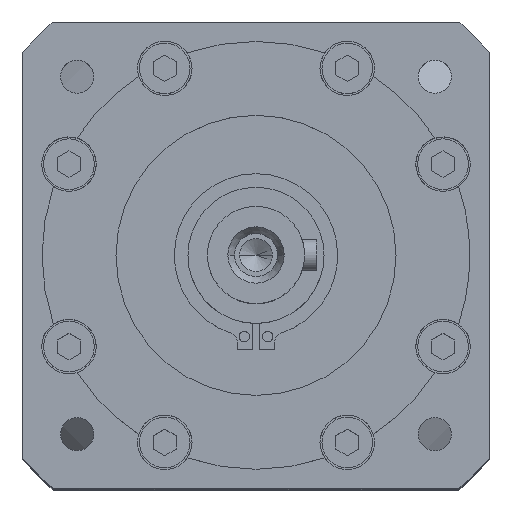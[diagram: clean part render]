
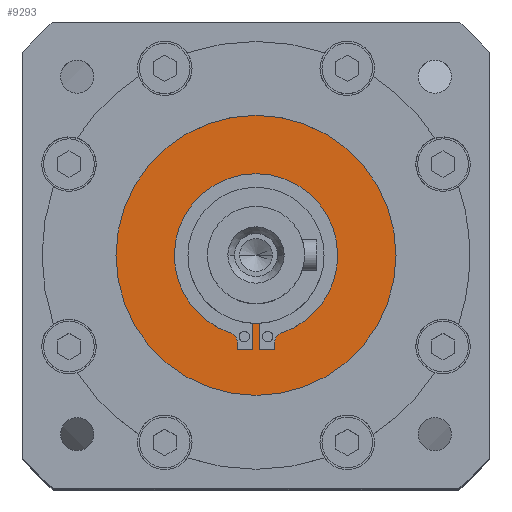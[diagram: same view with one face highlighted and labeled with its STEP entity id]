
A CAD part, top view. The second image highlights one B-rep face of the part: STEP entity #9293.
In plain terms, the highlighted planar face has unit normal (0, 0, 1).
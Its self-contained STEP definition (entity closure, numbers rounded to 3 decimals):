
#36 = CIRCLE ( 'NONE', #3330, 36. ) ;
#170 = CARTESIAN_POINT ( 'NONE',  ( 0., 0., -2.7 ) ) ;
#273 = EDGE_CURVE ( 'NONE', #7255, #22092, #6097, .T. ) ;
#582 = VERTEX_POINT ( 'NONE', #15403 ) ;
#587 = EDGE_CURVE ( 'NONE', #13896, #582, #6360, .T. ) ;
#715 = EDGE_LOOP ( 'NONE', ( #20134, #7113 ) ) ;
#995 = VERTEX_POINT ( 'NONE', #15893 ) ;
#1152 = EDGE_CURVE ( 'NONE', #995, #13896, #11259, .T. ) ;
#1236 = CIRCLE ( 'NONE', #4752, 0.5 ) ;
#1371 = CARTESIAN_POINT ( 'NONE',  ( -4.85, -23.779, -2.7 ) ) ;
#1428 = FACE_BOUND ( 'NONE', #5446, .T. ) ;
#1485 = VECTOR ( 'NONE', #14536, 1000. ) ;
#1502 = EDGE_CURVE ( 'NONE', #7551, #995, #19468, .T. ) ;
#1710 = DIRECTION ( 'NONE',  ( -1., 0., 0. ) ) ;
#1740 = DIRECTION ( 'NONE',  ( 0., 0., -1. ) ) ;
#1772 = CARTESIAN_POINT ( 'NONE',  ( 21., 0., -2.7 ) ) ;
#1775 = DIRECTION ( 'NONE',  ( -1., 0., 0. ) ) ;
#1784 = PLANE ( 'NONE',  #19605 ) ;
#1798 = DIRECTION ( 'NONE',  ( 0., 0., 1. ) ) ;
#1843 = VERTEX_POINT ( 'NONE', #3683 ) ;
#1928 = CARTESIAN_POINT ( 'NONE',  ( -4.35, -23.779, -2.7 ) ) ;
#2153 = AXIS2_PLACEMENT_3D ( 'NONE', #4723, #4679, #5082 ) ;
#2210 = ORIENTED_EDGE ( 'NONE', *, *, #2592, .F. ) ;
#2246 = CIRCLE ( 'NONE', #9579, 21. ) ;
#2250 = CARTESIAN_POINT ( 'NONE',  ( 0., 0., -2.7 ) ) ;
#2592 = EDGE_CURVE ( 'NONE', #9912, #7551, #7965, .T. ) ;
#2595 = VECTOR ( 'NONE', #17899, 1000. ) ;
#2662 = VECTOR ( 'NONE', #20592, 1000. ) ;
#2829 = EDGE_CURVE ( 'NONE', #18204, #9912, #12808, .T. ) ;
#2839 = CARTESIAN_POINT ( 'NONE',  ( -6.568, -19.946, -2.7 ) ) ;
#2952 = LINE ( 'NONE', #8783, #21380 ) ;
#3037 = EDGE_CURVE ( 'NONE', #16131, #5040, #3263, .T. ) ;
#3184 = EDGE_CURVE ( 'NONE', #1843, #16131, #18979, .T. ) ;
#3263 = CIRCLE ( 'NONE', #7308, 21. ) ;
#3330 = AXIS2_PLACEMENT_3D ( 'NONE', #19835, #19823, #19794 ) ;
#3336 = DIRECTION ( 'NONE',  ( 1., 0., 0. ) ) ;
#3399 = EDGE_CURVE ( 'NONE', #16362, #1843, #2952, .T. ) ;
#3404 = DIRECTION ( 'NONE',  ( 0., 0., 1. ) ) ;
#3455 = CARTESIAN_POINT ( 'NONE',  ( 4.35, -23.779, -2.7 ) ) ;
#3509 = EDGE_CURVE ( 'NONE', #6121, #16362, #1236, .T. ) ;
#3668 = EDGE_CURVE ( 'NONE', #6023, #6121, #7499, .T. ) ;
#3683 = CARTESIAN_POINT ( 'NONE',  ( 4.85, -22.321, -2.7 ) ) ;
#3780 = EDGE_CURVE ( 'NONE', #22359, #6023, #15020, .T. ) ;
#3878 = EDGE_CURVE ( 'NONE', #582, #22359, #5268, .T. ) ;
#4539 = ORIENTED_EDGE ( 'NONE', *, *, #2829, .F. ) ;
#4679 = DIRECTION ( 'NONE',  ( 0., 0., 1. ) ) ;
#4723 = CARTESIAN_POINT ( 'NONE',  ( 0., 0., -2.7 ) ) ;
#4752 = AXIS2_PLACEMENT_3D ( 'NONE', #3455, #3404, #3336 ) ;
#4955 = ORIENTED_EDGE ( 'NONE', *, *, #3780, .F. ) ;
#5040 = VERTEX_POINT ( 'NONE', #1772 ) ;
#5082 = DIRECTION ( 'NONE',  ( -1., 0., 0. ) ) ;
#5268 = CIRCLE ( 'NONE', #2153, 17.5 ) ;
#5446 = EDGE_LOOP ( 'NONE', ( #17835, #7390, #22558, #2210, #4539, #7340, #14083, #15600, #18243, #15887, #14035, #16043, #4955, #12291 ) ) ;
#6023 = VERTEX_POINT ( 'NONE', #13642 ) ;
#6097 = CIRCLE ( 'NONE', #22149, 36. ) ;
#6121 = VERTEX_POINT ( 'NONE', #12207 ) ;
#6232 = AXIS2_PLACEMENT_3D ( 'NONE', #14443, #14415, #14369 ) ;
#6360 = LINE ( 'NONE', #15229, #1485 ) ;
#7113 = ORIENTED_EDGE ( 'NONE', *, *, #7767, .T. ) ;
#7255 = VERTEX_POINT ( 'NONE', #15486 ) ;
#7308 = AXIS2_PLACEMENT_3D ( 'NONE', #19486, #19432, #19405 ) ;
#7340 = ORIENTED_EDGE ( 'NONE', *, *, #10897, .F. ) ;
#7390 = ORIENTED_EDGE ( 'NONE', *, *, #1152, .F. ) ;
#7499 = LINE ( 'NONE', #21030, #2662 ) ;
#7551 = VERTEX_POINT ( 'NONE', #1371 ) ;
#7667 = DIRECTION ( 'NONE',  ( 0., 1., 0. ) ) ;
#7767 = EDGE_CURVE ( 'NONE', #22092, #7255, #36, .T. ) ;
#7779 = DIRECTION ( 'NONE',  ( 0., -1., 0. ) ) ;
#7807 = CARTESIAN_POINT ( 'NONE',  ( 0.85, -24.279, -2.7 ) ) ;
#7965 = LINE ( 'NONE', #18685, #2595 ) ;
#8188 = AXIS2_PLACEMENT_3D ( 'NONE', #14488, #14561, #14220 ) ;
#8783 = CARTESIAN_POINT ( 'NONE',  ( 4.85, -23.779, -2.7 ) ) ;
#9285 = DIRECTION ( 'NONE',  ( -1., 0., 0. ) ) ;
#9293 = ADVANCED_FACE ( 'NONE', ( #14944, #1428 ), #1784, .F. ) ;
#9310 = DIRECTION ( 'NONE',  ( 0., 0., 1. ) ) ;
#9332 = CARTESIAN_POINT ( 'NONE',  ( 0., 0., -2.7 ) ) ;
#9541 = CARTESIAN_POINT ( 'NONE',  ( -21., 0., -2.7 ) ) ;
#9579 = AXIS2_PLACEMENT_3D ( 'NONE', #9332, #9310, #9285 ) ;
#9864 = EDGE_CURVE ( 'NONE', #5040, #10913, #15997, .T. ) ;
#9912 = VERTEX_POINT ( 'NONE', #22421 ) ;
#10445 = VECTOR ( 'NONE', #7779, 1000. ) ;
#10897 = EDGE_CURVE ( 'NONE', #10913, #18204, #2246, .T. ) ;
#10913 = VERTEX_POINT ( 'NONE', #9541 ) ;
#11259 = LINE ( 'NONE', #11855, #19758 ) ;
#11803 = DIRECTION ( 'NONE',  ( 1., 0., 0. ) ) ;
#11855 = CARTESIAN_POINT ( 'NONE',  ( -0.85, -24.279, -2.7 ) ) ;
#12207 = CARTESIAN_POINT ( 'NONE',  ( 4.35, -24.279, -2.7 ) ) ;
#12291 = ORIENTED_EDGE ( 'NONE', *, *, #3878, .F. ) ;
#12354 = CARTESIAN_POINT ( 'NONE',  ( -0.85, -24.279, -2.7 ) ) ;
#12808 = CIRCLE ( 'NONE', #8188, 2.5 ) ;
#12946 = CARTESIAN_POINT ( 'NONE',  ( 0.85, -17.479, -2.7 ) ) ;
#13642 = CARTESIAN_POINT ( 'NONE',  ( 0.85, -24.279, -2.7 ) ) ;
#13896 = VERTEX_POINT ( 'NONE', #12354 ) ;
#14035 = ORIENTED_EDGE ( 'NONE', *, *, #3509, .F. ) ;
#14083 = ORIENTED_EDGE ( 'NONE', *, *, #9864, .F. ) ;
#14220 = DIRECTION ( 'NONE',  ( -1., 0., 0. ) ) ;
#14369 = DIRECTION ( 'NONE',  ( 1., 0., 0. ) ) ;
#14415 = DIRECTION ( 'NONE',  ( 0., 0., -1. ) ) ;
#14443 = CARTESIAN_POINT ( 'NONE',  ( 7.35, -22.321, -2.7 ) ) ;
#14488 = CARTESIAN_POINT ( 'NONE',  ( -7.35, -22.321, -2.7 ) ) ;
#14503 = CARTESIAN_POINT ( 'NONE',  ( 4.85, -23.779, -2.7 ) ) ;
#14536 = DIRECTION ( 'NONE',  ( 0., 1., 0. ) ) ;
#14561 = DIRECTION ( 'NONE',  ( 0., 0., -1. ) ) ;
#14944 = FACE_OUTER_BOUND ( 'NONE', #715, .T. ) ;
#14947 = DIRECTION ( 'NONE',  ( -1., 0., 0. ) ) ;
#15010 = DIRECTION ( 'NONE',  ( 0., 0., 1. ) ) ;
#15020 = LINE ( 'NONE', #7807, #10445 ) ;
#15229 = CARTESIAN_POINT ( 'NONE',  ( -0.85, -24.279, -2.7 ) ) ;
#15319 = CARTESIAN_POINT ( 'NONE',  ( 0., 0., -2.7 ) ) ;
#15403 = CARTESIAN_POINT ( 'NONE',  ( -0.85, -17.479, -2.7 ) ) ;
#15486 = CARTESIAN_POINT ( 'NONE',  ( 36., 0., -2.7 ) ) ;
#15600 = ORIENTED_EDGE ( 'NONE', *, *, #3037, .F. ) ;
#15808 = AXIS2_PLACEMENT_3D ( 'NONE', #170, #22573, #22555 ) ;
#15887 = ORIENTED_EDGE ( 'NONE', *, *, #3399, .F. ) ;
#15893 = CARTESIAN_POINT ( 'NONE',  ( -4.35, -24.279, -2.7 ) ) ;
#15960 = AXIS2_PLACEMENT_3D ( 'NONE', #1928, #1798, #1775 ) ;
#15997 = CIRCLE ( 'NONE', #15808, 21. ) ;
#16043 = ORIENTED_EDGE ( 'NONE', *, *, #3668, .F. ) ;
#16131 = VERTEX_POINT ( 'NONE', #16721 ) ;
#16362 = VERTEX_POINT ( 'NONE', #14503 ) ;
#16721 = CARTESIAN_POINT ( 'NONE',  ( 6.568, -19.946, -2.7 ) ) ;
#17835 = ORIENTED_EDGE ( 'NONE', *, *, #587, .F. ) ;
#17899 = DIRECTION ( 'NONE',  ( 0., -1., 0. ) ) ;
#18204 = VERTEX_POINT ( 'NONE', #2839 ) ;
#18243 = ORIENTED_EDGE ( 'NONE', *, *, #3184, .F. ) ;
#18685 = CARTESIAN_POINT ( 'NONE',  ( -4.85, -23.779, -2.7 ) ) ;
#18979 = CIRCLE ( 'NONE', #6232, 2.5 ) ;
#19405 = DIRECTION ( 'NONE',  ( -1., 0., 0. ) ) ;
#19432 = DIRECTION ( 'NONE',  ( 0., 0., 1. ) ) ;
#19468 = CIRCLE ( 'NONE', #15960, 0.5 ) ;
#19486 = CARTESIAN_POINT ( 'NONE',  ( 0., 0., -2.7 ) ) ;
#19605 = AXIS2_PLACEMENT_3D ( 'NONE', #2250, #1740, #1710 ) ;
#19758 = VECTOR ( 'NONE', #11803, 1000. ) ;
#19794 = DIRECTION ( 'NONE',  ( -1., 0., 0. ) ) ;
#19823 = DIRECTION ( 'NONE',  ( 0., 0., 1. ) ) ;
#19835 = CARTESIAN_POINT ( 'NONE',  ( 0., 0., -2.7 ) ) ;
#20134 = ORIENTED_EDGE ( 'NONE', *, *, #273, .T. ) ;
#20592 = DIRECTION ( 'NONE',  ( 1., 0., 0. ) ) ;
#21030 = CARTESIAN_POINT ( 'NONE',  ( 0.85, -24.279, -2.7 ) ) ;
#21380 = VECTOR ( 'NONE', #7667, 1000. ) ;
#22092 = VERTEX_POINT ( 'NONE', #22408 ) ;
#22149 = AXIS2_PLACEMENT_3D ( 'NONE', #15319, #15010, #14947 ) ;
#22359 = VERTEX_POINT ( 'NONE', #12946 ) ;
#22408 = CARTESIAN_POINT ( 'NONE',  ( -36., 0., -2.7 ) ) ;
#22421 = CARTESIAN_POINT ( 'NONE',  ( -4.85, -22.321, -2.7 ) ) ;
#22555 = DIRECTION ( 'NONE',  ( -1., 0., 0. ) ) ;
#22558 = ORIENTED_EDGE ( 'NONE', *, *, #1502, .F. ) ;
#22573 = DIRECTION ( 'NONE',  ( 0., 0., 1. ) ) ;
